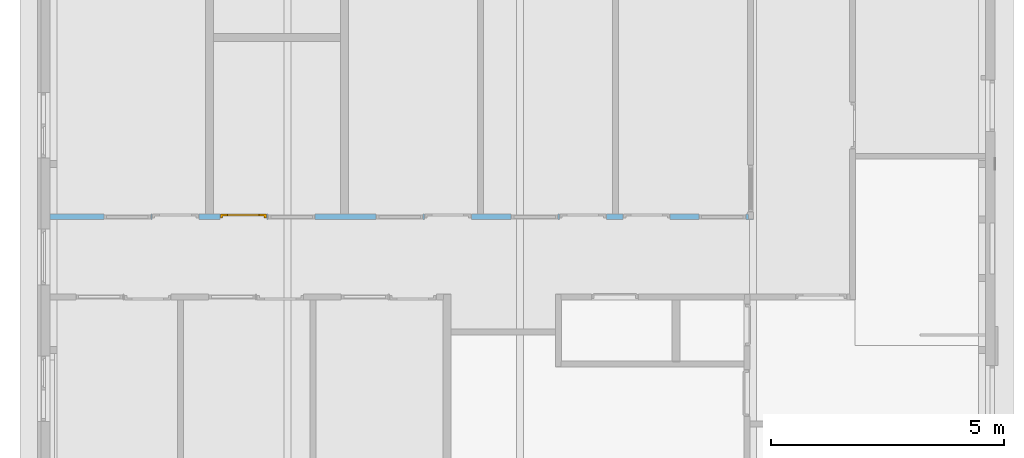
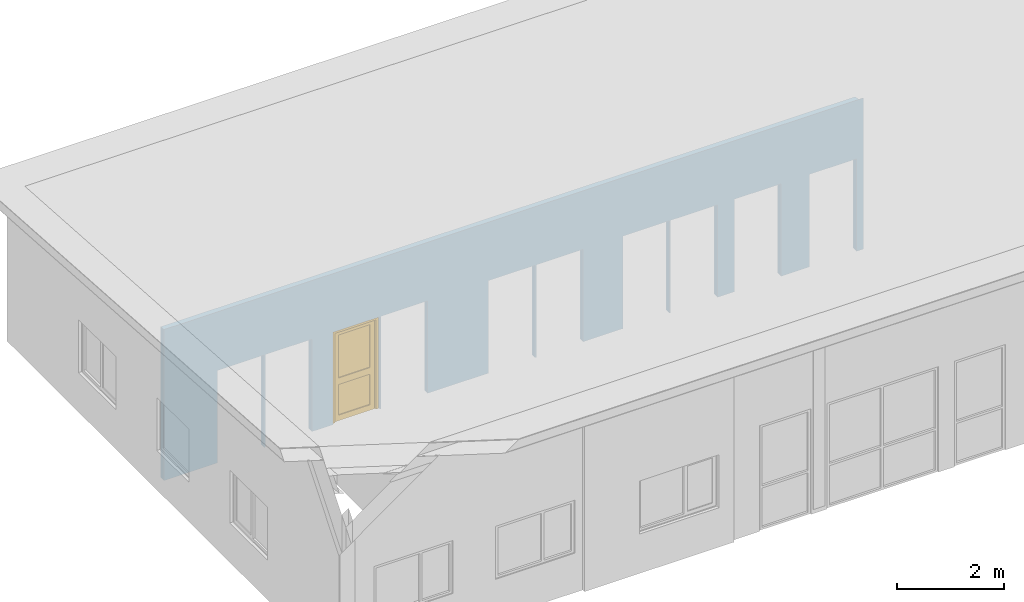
# One storey, part 19 of 37: 1 door, 10 openings, plus 1 element that does not belong to this part.
"""IFC2X3 building model written with IfcOpenShell, lengths in millimetres."""

from ifc_helpers import new_model, entity, si_unit, converted_unit, frame, frame_2d, origin, origin_with_axes, place, context, subcontext, project, spatial, polyline, rectangle, outline, extrude, clip, halfspace, faceted_brep, material, layer, layer_set, layer_usage, type_object, element, fill, save


model = new_model("IFC2X3")

# Units and contexts
model_context = context("Model", 3, precision=1e-05, world=origin())
plan_context = context("Plan", 3, precision=1e-05, world=origin())
body_context = subcontext(model_context, "Body", "Model", "MODEL_VIEW")
ifc_project = project(units=[si_unit("LENGTHUNIT", "METRE", prefix="MILLI"), converted_unit("PLANEANGLEUNIT", "DEGREE", entity("IfcPlaneAngleMeasure", 0.0174532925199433), si_unit("PLANEANGLEUNIT", "RADIAN"), dimensions=[0, 0, 0, 0, 0, 0, 0]), si_unit("AREAUNIT", "SQUARE_METRE"), si_unit("VOLUMEUNIT", "CUBIC_METRE")], contexts=[model_context, plan_context])

# Building, storey
building_placement = place(None, origin())
building = spatial("IfcBuilding", under=ifc_project, at=building_placement, Name="HEKF Administrasjonbygg", CompositionType="ELEMENT")
storey_placement = place(building_placement, frame((0.0, 0.0, 9900.0), z_axis=(0.0, 0.0, 1.0), x_axis=(1.0, 0.0, 0.0)))
storey = spatial("IfcBuildingStorey", under=building, at=storey_placement, Name="Plan 2", CompositionType="ELEMENT", Elevation=9900.0)

# Wall, openings, door
ifc_material_1 = material(Name="gips")
ifc_layer_1 = layer(ifc_material_1, 13.0)
ifc_material_2 = material(Name="riegel stål 100")
ifc_layer_2 = layer(ifc_material_2, 100.0)
ifc_material_3 = material(Name="gips")
ifc_layer_3 = layer(ifc_material_3, 13.0)
ifc_layer_set = layer_set([ifc_layer_1, ifc_layer_2, ifc_layer_3])
ifc_layer_usage = layer_usage(ifc_layer_set, "AXIS2", "POSITIVE", 0.0)
wall_placement = place(storey_placement, frame((24887.0, -5075.0, 0.0), z_axis=(0.0, 0.0, 1.0), x_axis=(-1.0, 0.0, 0.0)))
wall = element("IfcWallStandardCase", 1, at=wall_placement, inside=storey, material=ifc_layer_usage, context=body_context, shape_type="Clipping", body=[
    clip(extrude(outline(polyline([(-113.0, 126.0), (-113.0, 113.0), (-13.0, 113.0), (-13.0, 13.0), (0.0, 13.0), (0.0, 0.0), (2774.0, 0.0), (2774.0, 13.0), (2787.0, 13.0), (2787.0, 0.0), (14987.00000000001, 0.0), (14987.00000000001, 126.0), (-113.0, 126.0)])), origin_with_axes(), (0.0, 0.0, 1.0), 3446.733333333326), halfspace(frame((2787.0, 0.0, 3438.333333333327), z_axis=(-9.402241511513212e-18, 0.06651901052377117, -0.9977851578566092), x_axis=(1.0, 0.0, 0.0)), True)),
])
opening_1_placement = place(wall_placement, frame((9293.284477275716, 0.0, 0.0), z_axis=(0.0, 1.0, 0.0), x_axis=(0.0, 0.0, 1.0)))
element("IfcOpeningElement", 2, at=opening_1_placement, cuts=wall, Name="Window opening", ObjectType="Opening", context=body_context, shape_type="SweptSolid", body=[
    extrude(rectangle(XDim=2110.0, YDim=1010.0, at=frame_2d((1055.0, 505.0), x_axis=(1.0, 0.0))), origin_with_axes(), (0.0, 0.0, 1.0), 126.0),
])
opening_2_placement = place(wall_placement, frame((6972.0, 0.0, 0.0), z_axis=(0.0, 1.0, 0.0), x_axis=(0.0, 0.0, 1.0)))
element("IfcOpeningElement", 3, at=opening_2_placement, cuts=wall, Name="Window opening", ObjectType="Opening", context=body_context, shape_type="SweptSolid", body=[
    extrude(rectangle(XDim=2110.0, YDim=1010.0, at=frame_2d((1055.0, 505.0), x_axis=(1.0, 0.0))), origin_with_axes(), (0.0, 0.0, 1.0), 126.0),
])
opening_3_placement = place(wall_placement, frame((12823.28447727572, 0.0, 0.0), z_axis=(0.0, 1.0, 0.0), x_axis=(0.0, 0.0, 1.0)))
element("IfcOpeningElement", 4, at=opening_3_placement, cuts=wall, Name="Window opening", ObjectType="Opening", context=body_context, shape_type="SweptSolid", body=[
    extrude(rectangle(XDim=2110.0, YDim=1010.0, at=frame_2d((1055.0, 505.0), x_axis=(1.0, 0.0))), origin_with_axes(), (0.0, 0.0, 1.0), 126.0),
])
opening_4_placement = place(wall_placement, frame((4072.0, 0.0, 0.0), z_axis=(0.0, 1.0, 0.0), x_axis=(0.0, 0.0, 1.0)))
element("IfcOpeningElement", 5, at=opening_4_placement, cuts=wall, Name="Window opening", ObjectType="Opening", context=body_context, shape_type="SweptSolid", body=[
    extrude(rectangle(XDim=2110.0, YDim=1010.0, at=frame_2d((1055.0, 505.0), x_axis=(1.0, 0.0))), origin_with_axes(), (0.0, 0.0, 1.0), 126.0),
])
opening_5_placement = place(wall_placement, frame((37.0, 0.0, 0.0), z_axis=(0.0, 1.0, 0.0), x_axis=(0.0, 0.0, 1.0)))
element("IfcOpeningElement", 6, at=opening_5_placement, cuts=wall, Name="Window opening", ObjectType="Opening", context=body_context, shape_type="SweptSolid", body=[
    extrude(rectangle(XDim=2110.0, YDim=1010.0, at=frame_2d((1055.0, 505.0), x_axis=(1.0, 0.0))), origin_with_axes(), (0.0, 0.0, 1.0), 126.0),
])
opening_6_placement = place(wall_placement, frame((11788.28447727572, 0.0, 0.0), z_axis=(0.0, 1.0, 0.0), x_axis=(0.0, 0.0, 1.0)))
element("IfcOpeningElement", 7, at=opening_6_placement, cuts=wall, Name="garasjeport med glassfelter:45x6", ObjectType="Opening", context=body_context, shape_type="SweptSolid", body=[
    extrude(rectangle(XDim=2110.0, YDim=1010.0, at=frame_2d((1055.0, 505.0), x_axis=(1.0, 0.0))), origin_with_axes(), (0.0, 0.0, 1.0), 126.0),
])
opening_7_placement = place(wall_placement, frame((10328.28447727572, 0.0, 0.0), z_axis=(0.0, 1.0, 0.0), x_axis=(0.0, 0.0, 1.0)))
opening_7 = element("IfcOpeningElement", 8, at=opening_7_placement, cuts=wall, Name="garasjeport med glassfelter:45x6", ObjectType="Opening", context=body_context, shape_type="SweptSolid", body=[
    extrude(rectangle(XDim=2110.0, YDim=1010.0, at=frame_2d((1055.0, 505.0), x_axis=(1.0, 0.0))), origin_with_axes(), (0.0, 0.0, 1.0), 126.0),
])
opening_8_placement = place(wall_placement, frame((5937.0, 0.0, 0.0), z_axis=(0.0, 1.0, 0.0), x_axis=(0.0, 0.0, 1.0)))
element("IfcOpeningElement", 9, at=opening_8_placement, cuts=wall, Name="garasjeport med glassfelter:45x6", ObjectType="Opening", context=body_context, shape_type="SweptSolid", body=[
    extrude(rectangle(XDim=2110.0, YDim=1010.0, at=frame_2d((1055.0, 505.0), x_axis=(1.0, 0.0))), origin_with_axes(), (0.0, 0.0, 1.0), 126.0),
])
opening_9_placement = place(wall_placement, frame((3037.0, 0.0, 0.0), z_axis=(0.0, 1.0, 0.0), x_axis=(0.0, 0.0, 1.0)))
element("IfcOpeningElement", 10, at=opening_9_placement, cuts=wall, Name="garasjeport med glassfelter:45x6", ObjectType="Opening", context=body_context, shape_type="SweptSolid", body=[
    extrude(rectangle(XDim=2110.0, YDim=1010.0, at=frame_2d((1055.0, 505.0), x_axis=(1.0, 0.0))), origin_with_axes(), (0.0, 0.0, 1.0), 126.0),
])
opening_10_placement = place(wall_placement, frame((1664.0, 0.0, 0.0), z_axis=(0.0, 1.0, 0.0), x_axis=(0.0, 0.0, 1.0)))
element("IfcOpeningElement", 11, at=opening_10_placement, cuts=wall, Name="garasjeport med glassfelter:45x6", ObjectType="Opening", context=body_context, shape_type="SweptSolid", body=[
    extrude(rectangle(XDim=2110.0, YDim=1010.0, at=frame_2d((1055.0, 505.0), x_axis=(1.0, 0.0))), origin_with_axes(), (0.0, 0.0, 1.0), 126.0),
])
ifc_material_4 = material()
door_style = type_object("IfcDoorStyle", Name="D110", ConstructionType="NOTDEFINED", OperationType="USERDEFINED", ParameterTakesPrecedence=False, Sizeable=False)
door_placement = place(opening_7_placement, frame((0.0, 0.0, 0.0), z_axis=(1.0, 0.0, 0.0), x_axis=(0.0, 1.0, 0.0)))
door = element("IfcDoor", 12, at=door_placement, inside=storey, type_object=door_style, material=ifc_material_4, Name="D110", OverallHeight=2110.0, OverallWidth=1010.0, context=body_context, shape_type="Brep", body=[
    faceted_brep([(1000.0, 0.9999999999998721, 2090.0), (1000.0, 1.0, -2.816687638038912e-15), (950.0, 1.000000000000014, -2.816687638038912e-15), (950.0, 0.9999999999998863, 2090.0), (1000.0, 93.0, 2.816687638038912e-15), (1000.0, 92.99999999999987, 2090.0), (950.0, 92.99999999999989, 2090.0), (950.0, 93.00000000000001, 2.816687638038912e-15), (1000.0, 1.0, -2.816687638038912e-15), (1000.0, 0.9999999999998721, 2090.0), (1000.0, 92.99999999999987, 2090.0), (1000.0, 93.0, 2.816687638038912e-15), (950.0, 1.000000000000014, -2.816687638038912e-15), (1000.0, 1.0, -2.816687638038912e-15), (1000.0, 93.0, 2.816687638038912e-15), (950.0, 93.00000000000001, 2.816687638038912e-15), (950.0, 0.9999999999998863, 2090.0), (950.0, 1.000000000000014, -2.816687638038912e-15), (950.0, 93.00000000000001, 2.816687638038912e-15), (950.0, 92.99999999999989, 2090.0), (1000.0, 0.9999999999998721, 2090.0), (950.0, 0.9999999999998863, 2090.0), (950.0, 92.99999999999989, 2090.0), (1000.0, 92.99999999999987, 2090.0)], [[[0, 1, 2, 3]], [[4, 5, 6, 7]], [[8, 9, 10, 11]], [[12, 13, 14, 15]], [[16, 17, 18, 19]], [[20, 21, 22, 23]]], orient=[[False], [False], [False], [False], [False], [False]]),
    faceted_brep([(60.0, 1.0000000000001, 2090.0), (60.0, 1.000000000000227, -2.816687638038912e-15), (10.0, 1.000000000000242, -2.816687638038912e-15), (10.0, 1.000000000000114, 2090.0), (60.0, 93.00000000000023, 2.816687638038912e-15), (60.0, 93.0000000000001, 2090.0), (10.0, 93.00000000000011, 2090.0), (10.0, 93.00000000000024, 2.816687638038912e-15), (60.0, 1.000000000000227, -2.816687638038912e-15), (60.0, 1.0000000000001, 2090.0), (60.0, 93.0000000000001, 2090.0), (60.0, 93.00000000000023, 2.816687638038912e-15), (10.0, 1.000000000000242, -2.816687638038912e-15), (60.0, 1.000000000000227, -2.816687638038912e-15), (60.0, 93.00000000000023, 2.816687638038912e-15), (10.0, 93.00000000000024, 2.816687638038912e-15), (10.0, 1.000000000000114, 2090.0), (10.0, 1.000000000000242, -2.816687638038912e-15), (10.0, 93.00000000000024, 2.816687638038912e-15), (10.0, 93.00000000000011, 2090.0), (60.0, 1.0000000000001, 2090.0), (10.0, 1.000000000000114, 2090.0), (10.0, 93.00000000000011, 2090.0), (60.0, 93.0000000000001, 2090.0)], [[[0, 1, 2, 3]], [[4, 5, 6, 7]], [[8, 9, 10, 11]], [[12, 13, 14, 15]], [[16, 17, 18, 19]], [[20, 21, 22, 23]]], orient=[[False], [False], [False], [False], [False], [False]]),
    faceted_brep([(950.0, 0.9999999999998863, 2090.0), (950.0, 0.9999999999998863, 2040.0), (60.00000000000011, 1.0000000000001, 2040.0), (60.00000000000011, 1.0000000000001, 2090.0), (950.0, 92.99999999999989, 2040.0), (950.0, 92.99999999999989, 2090.0), (60.00000000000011, 93.0000000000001, 2090.0), (60.00000000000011, 93.0000000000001, 2040.0), (950.0, 0.9999999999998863, 2040.0), (950.0, 0.9999999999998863, 2090.0), (950.0, 92.99999999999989, 2090.0), (950.0, 92.99999999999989, 2040.0), (60.00000000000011, 1.0000000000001, 2040.0), (950.0, 0.9999999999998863, 2040.0), (950.0, 92.99999999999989, 2040.0), (60.00000000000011, 93.0000000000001, 2040.0), (60.00000000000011, 1.0000000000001, 2090.0), (60.00000000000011, 1.0000000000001, 2040.0), (60.00000000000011, 93.0000000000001, 2040.0), (60.00000000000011, 93.0000000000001, 2090.0), (950.0, 0.9999999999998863, 2090.0), (60.00000000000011, 1.0000000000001, 2090.0), (60.00000000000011, 93.0000000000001, 2090.0), (950.0, 92.99999999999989, 2090.0)], [[[0, 1, 2, 3]], [[4, 5, 6, 7]], [[8, 9, 10, 11]], [[12, 13, 14, 15]], [[16, 17, 18, 19]], [[20, 21, 22, 23]]], orient=[[False], [False], [False], [False], [False], [False]]),
    faceted_brep([(970.0, 0.9999999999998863, 2060.0), (970.0, 1.000000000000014, -20.0), (845.0, 1.000000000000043, -20.0), (845.0, 0.9999999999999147, 2060.0), (970.0, 41.00000000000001, -20.0), (970.0, 40.99999999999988, 2060.0), (845.0, 40.99999999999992, 2060.0), (845.0, 41.00000000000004, -20.0), (970.0, 1.000000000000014, -20.0), (970.0, 0.9999999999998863, 2060.0), (970.0, 40.99999999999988, 2060.0), (970.0, 41.00000000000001, -20.0), (845.0, 1.000000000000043, -20.0), (970.0, 1.000000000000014, -20.0), (970.0, 41.00000000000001, -20.0), (845.0, 41.00000000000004, -20.0), (845.0, 0.9999999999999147, 2060.0), (845.0, 1.000000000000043, -20.0), (845.0, 41.00000000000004, -20.0), (845.0, 40.99999999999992, 2060.0), (970.0, 0.9999999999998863, 2060.0), (845.0, 0.9999999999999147, 2060.0), (845.0, 40.99999999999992, 2060.0), (970.0, 40.99999999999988, 2060.0)], [[[0, 1, 2, 3]], [[4, 5, 6, 7]], [[8, 9, 10, 11]], [[12, 13, 14, 15]], [[16, 17, 18, 19]], [[20, 21, 22, 23]]], orient=[[False], [False], [False], [False], [False], [False]]),
    faceted_brep([(165.0000000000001, 1.000000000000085, 2060.0), (165.0000000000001, 1.000000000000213, -20.0), (40.00000000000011, 1.000000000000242, -20.0), (40.00000000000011, 1.000000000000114, 2060.0), (165.0000000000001, 41.00000000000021, -20.0), (165.0000000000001, 41.00000000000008, 2060.0), (40.00000000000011, 41.00000000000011, 2060.0), (40.00000000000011, 41.00000000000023, -20.0), (165.0000000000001, 1.000000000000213, -20.0), (165.0000000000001, 1.000000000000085, 2060.0), (165.0000000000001, 41.00000000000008, 2060.0), (165.0000000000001, 41.00000000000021, -20.0), (40.00000000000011, 1.000000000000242, -20.0), (165.0000000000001, 1.000000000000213, -20.0), (165.0000000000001, 41.00000000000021, -20.0), (40.00000000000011, 41.00000000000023, -20.0), (40.00000000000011, 1.000000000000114, 2060.0), (40.00000000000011, 1.000000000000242, -20.0), (40.00000000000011, 41.00000000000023, -20.0), (40.00000000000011, 41.00000000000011, 2060.0), (165.0000000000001, 1.000000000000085, 2060.0), (40.00000000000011, 1.000000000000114, 2060.0), (40.00000000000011, 41.00000000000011, 2060.0), (165.0000000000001, 41.00000000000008, 2060.0)], [[[0, 1, 2, 3]], [[4, 5, 6, 7]], [[8, 9, 10, 11]], [[12, 13, 14, 15]], [[16, 17, 18, 19]], [[20, 21, 22, 23]]], orient=[[False], [False], [False], [False], [False], [False]]),
    faceted_brep([(845.0, 1.000000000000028, 105.0), (845.0, 1.000000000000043, -20.0), (165.0000000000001, 1.000000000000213, -20.0), (165.0000000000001, 1.000000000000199, 105.0), (845.0, 41.00000000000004, -20.0), (845.0, 41.00000000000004, 105.0), (165.0000000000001, 41.0000000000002, 105.0), (165.0000000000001, 41.00000000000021, -20.0), (845.0, 1.000000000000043, -20.0), (845.0, 1.000000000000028, 105.0), (845.0, 41.00000000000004, 105.0), (845.0, 41.00000000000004, -20.0), (165.0000000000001, 1.000000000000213, -20.0), (845.0, 1.000000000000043, -20.0), (845.0, 41.00000000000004, -20.0), (165.0000000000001, 41.00000000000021, -20.0), (165.0000000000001, 1.000000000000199, 105.0), (165.0000000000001, 1.000000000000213, -20.0), (165.0000000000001, 41.00000000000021, -20.0), (165.0000000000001, 41.0000000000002, 105.0), (845.0, 1.000000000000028, 105.0), (165.0000000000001, 1.000000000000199, 105.0), (165.0000000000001, 41.0000000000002, 105.0), (845.0, 41.00000000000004, 105.0)], [[[0, 1, 2, 3]], [[4, 5, 6, 7]], [[8, 9, 10, 11]], [[12, 13, 14, 15]], [[16, 17, 18, 19]], [[20, 21, 22, 23]]], orient=[[False], [False], [False], [False], [False], [False]]),
    faceted_brep([(845.0, 0.9999999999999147, 2060.0), (845.0, 0.999999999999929, 1935.0), (165.0000000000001, 1.0000000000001, 1935.0), (165.0000000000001, 1.000000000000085, 2060.0), (845.0, 40.99999999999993, 1935.0), (845.0, 40.99999999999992, 2060.0), (165.0000000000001, 41.00000000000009, 2060.0), (165.0000000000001, 41.00000000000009, 1935.0), (845.0, 0.999999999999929, 1935.0), (845.0, 0.9999999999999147, 2060.0), (845.0, 40.99999999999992, 2060.0), (845.0, 40.99999999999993, 1935.0), (165.0000000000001, 1.0000000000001, 1935.0), (845.0, 0.999999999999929, 1935.0), (845.0, 40.99999999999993, 1935.0), (165.0000000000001, 41.00000000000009, 1935.0), (165.0000000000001, 1.000000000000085, 2060.0), (165.0000000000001, 1.0000000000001, 1935.0), (165.0000000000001, 41.00000000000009, 1935.0), (165.0000000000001, 41.00000000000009, 2060.0), (845.0, 0.9999999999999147, 2060.0), (165.0000000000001, 1.000000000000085, 2060.0), (165.0000000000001, 41.00000000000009, 2060.0), (845.0, 40.99999999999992, 2060.0)], [[[0, 1, 2, 3]], [[4, 5, 6, 7]], [[8, 9, 10, 11]], [[12, 13, 14, 15]], [[16, 17, 18, 19]], [[20, 21, 22, 23]]], orient=[[False], [False], [False], [False], [False], [False]]),
    faceted_brep([(845.0, 0.9999999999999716, 955.0), (845.0, 0.9999999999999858, 805.0), (165.0000000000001, 1.000000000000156, 805.0), (165.0000000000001, 1.000000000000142, 955.0), (845.0, 40.99999999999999, 805.0), (845.0, 40.99999999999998, 955.0), (165.0000000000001, 41.00000000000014, 955.0), (165.0000000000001, 41.00000000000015, 805.0), (845.0, 0.9999999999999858, 805.0), (845.0, 0.9999999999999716, 955.0), (845.0, 40.99999999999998, 955.0), (845.0, 40.99999999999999, 805.0), (165.0000000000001, 1.000000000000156, 805.0), (845.0, 0.9999999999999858, 805.0), (845.0, 40.99999999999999, 805.0), (165.0000000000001, 41.00000000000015, 805.0), (165.0000000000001, 1.000000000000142, 955.0), (165.0000000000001, 1.000000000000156, 805.0), (165.0000000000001, 41.00000000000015, 805.0), (165.0000000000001, 41.00000000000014, 955.0), (845.0, 0.9999999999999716, 955.0), (165.0000000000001, 1.000000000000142, 955.0), (165.0000000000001, 41.00000000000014, 955.0), (845.0, 40.99999999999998, 955.0)], [[[0, 1, 2, 3]], [[4, 5, 6, 7]], [[8, 9, 10, 11]], [[12, 13, 14, 15]], [[16, 17, 18, 19]], [[20, 21, 22, 23]]], orient=[[False], [False], [False], [False], [False], [False]]),
    faceted_brep([(845.0, 21.00000000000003, 105.0), (165.0000000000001, 21.0000000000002, 105.0), (165.0000000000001, 21.00000000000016, 805.0), (845.0, 20.99999999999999, 805.0), (845.0, 22.00000000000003, 105.0), (845.0, 21.99999999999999, 805.0), (165.0000000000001, 22.00000000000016, 805.0), (165.0000000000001, 22.0000000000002, 105.0), (845.0, 21.00000000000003, 105.0), (845.0, 22.00000000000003, 105.0), (165.0000000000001, 22.0000000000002, 105.0), (165.0000000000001, 21.0000000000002, 105.0), (165.0000000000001, 21.0000000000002, 105.0), (165.0000000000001, 22.0000000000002, 105.0), (165.0000000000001, 22.00000000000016, 805.0), (165.0000000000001, 21.00000000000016, 805.0), (165.0000000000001, 21.00000000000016, 805.0), (165.0000000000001, 22.00000000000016, 805.0), (845.0, 21.99999999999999, 805.0), (845.0, 20.99999999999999, 805.0), (845.0, 20.99999999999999, 805.0), (845.0, 21.99999999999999, 805.0), (845.0, 22.00000000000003, 105.0), (845.0, 21.00000000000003, 105.0)], [[[0, 1, 2, 3]], [[4, 5, 6, 7]], [[8, 9, 10, 11]], [[12, 13, 14, 15]], [[16, 17, 18, 19]], [[20, 21, 22, 23]]], orient=[[False], [False], [False], [False], [False], [False]]),
    faceted_brep([(845.0, 20.99999999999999, 955.0), (165.0000000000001, 21.00000000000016, 955.0), (165.0000000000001, 21.0000000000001, 1935.0), (845.0, 20.99999999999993, 1935.0), (845.0, 21.99999999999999, 955.0), (845.0, 21.99999999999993, 1935.0), (165.0000000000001, 22.0000000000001, 1935.0), (165.0000000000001, 22.00000000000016, 955.0), (845.0, 20.99999999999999, 955.0), (845.0, 21.99999999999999, 955.0), (165.0000000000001, 22.00000000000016, 955.0), (165.0000000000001, 21.00000000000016, 955.0), (165.0000000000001, 21.00000000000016, 955.0), (165.0000000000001, 22.00000000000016, 955.0), (165.0000000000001, 22.0000000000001, 1935.0), (165.0000000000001, 21.0000000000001, 1935.0), (165.0000000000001, 21.0000000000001, 1935.0), (165.0000000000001, 22.0000000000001, 1935.0), (845.0, 21.99999999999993, 1935.0), (845.0, 20.99999999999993, 1935.0), (845.0, 20.99999999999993, 1935.0), (845.0, 21.99999999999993, 1935.0), (845.0, 21.99999999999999, 955.0), (845.0, 20.99999999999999, 955.0)], [[[0, 1, 2, 3]], [[4, 5, 6, 7]], [[8, 9, 10, 11]], [[12, 13, 14, 15]], [[16, 17, 18, 19]], [[20, 21, 22, 23]]], orient=[[False], [False], [False], [False], [False], [False]]),
])
fill(opening_7, door)

save(model, "model.ifc")
